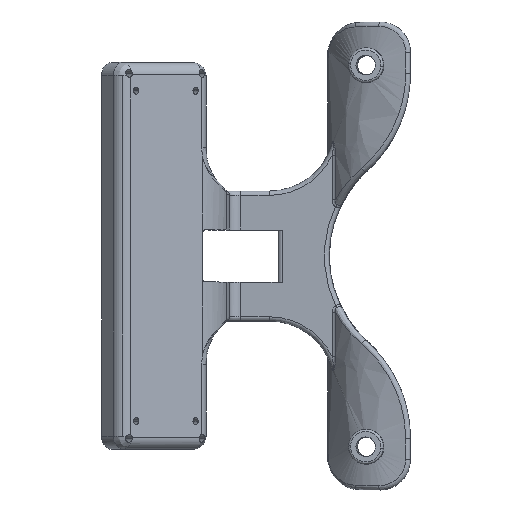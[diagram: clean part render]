
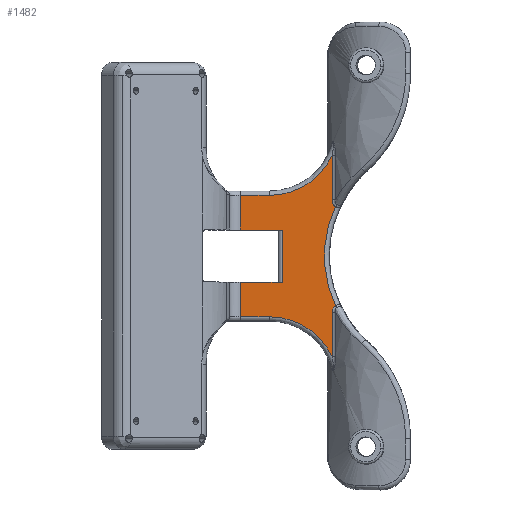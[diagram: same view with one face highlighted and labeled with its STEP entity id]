
A CAD part, top view. The second image highlights one B-rep face of the part: STEP entity #1482.
In plain terms, the highlighted planar face has unit normal (-0.04, 0, 0.999).
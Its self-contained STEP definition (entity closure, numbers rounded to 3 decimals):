
#115 = CARTESIAN_POINT ( 'NONE',  ( -21.756, -11.576, 86.727 ) ) ;
#173 = CARTESIAN_POINT ( 'NONE',  ( -22.273, 13.046, 86.706 ) ) ;
#202 = CARTESIAN_POINT ( 'NONE',  ( -22.273, -13.046, 86.706 ) ) ;
#228 = VECTOR ( 'NONE', #3594, 1000. ) ;
#238 = VERTEX_POINT ( 'NONE', #3571 ) ;
#267 = EDGE_CURVE ( 'NONE', #3783, #5908, #4291, .T. ) ;
#325 = CARTESIAN_POINT ( 'NONE',  ( -22.273, 0., 86.706 ) ) ;
#351 = EDGE_CURVE ( 'NONE', #4579, #238, #6690, .T. ) ;
#499 = ORIENTED_EDGE ( 'NONE', *, *, #1267, .T. ) ;
#601 = CARTESIAN_POINT ( 'NONE',  ( -36.743, 30., 86.127 ) ) ;
#652 = LINE ( 'NONE', #11689, #2396 ) ;
#989 = VERTEX_POINT ( 'NONE', #11862 ) ;
#1098 = CARTESIAN_POINT ( 'NONE',  ( -22.168, -12.258, 86.711 ) ) ;
#1102 = CARTESIAN_POINT ( 'NONE',  ( -22.047, 11.963, 86.715 ) ) ;
#1148 = DIRECTION ( 'NONE',  ( 0., -1., 0. ) ) ;
#1243 = ORIENTED_EDGE ( 'NONE', *, *, #7312, .F. ) ;
#1262 = VERTEX_POINT ( 'NONE', #3473 ) ;
#1267 = EDGE_CURVE ( 'NONE', #5908, #989, #1715, .T. ) ;
#1319 = EDGE_CURVE ( 'NONE', #10271, #1599, #6297, .T. ) ;
#1482 = ADVANCED_FACE ( 'NONE', ( #7320 ), #2748, .T. ) ;
#1530 = CARTESIAN_POINT ( 'NONE',  ( -21.966, 11.822, 86.719 ) ) ;
#1548 = ORIENTED_EDGE ( 'NONE', *, *, #9933, .T. ) ;
#1561 = CARTESIAN_POINT ( 'NONE',  ( -22.273, 0., 86.706 ) ) ;
#1599 = VERTEX_POINT ( 'NONE', #8067 ) ;
#1715 = CIRCLE ( 'NONE', #2479, 27. ) ;
#1762 = CARTESIAN_POINT ( 'NONE',  ( -22.168, 12.258, 86.71 ) ) ;
#1907 = DIRECTION ( 'NONE',  ( -0.04, 0., 0.999 ) ) ;
#1965 = CARTESIAN_POINT ( 'NONE',  ( -3.499, 0., 87.457 ) ) ;
#2151 = LINE ( 'NONE', #325, #5436 ) ;
#2166 = CARTESIAN_POINT ( 'NONE',  ( -43.401, -15., 85.861 ) ) ;
#2396 = VECTOR ( 'NONE', #5179, 1000. ) ;
#2479 = AXIS2_PLACEMENT_3D ( 'NONE', #7073, #3533, #3415 ) ;
#2552 = VECTOR ( 'NONE', #5284, 1000. ) ;
#2748 = PLANE ( 'NONE',  #10743 ) ;
#2796 = ORIENTED_EDGE ( 'NONE', *, *, #4982, .T. ) ;
#2966 = CARTESIAN_POINT ( 'NONE',  ( -21.487, -11.405, 86.738 ) ) ;
#3072 = LINE ( 'NONE', #2166, #6575 ) ;
#3152 = ORIENTED_EDGE ( 'NONE', *, *, #8782, .T. ) ;
#3202 = ORIENTED_EDGE ( 'NONE', *, *, #8100, .T. ) ;
#3334 = EDGE_CURVE ( 'NONE', #4971, #10271, #3072, .T. ) ;
#3354 = CARTESIAN_POINT ( 'NONE',  ( -3.499, -14., 87.457 ) ) ;
#3409 = VERTEX_POINT ( 'NONE', #6908 ) ;
#3415 = DIRECTION ( 'NONE',  ( 0.999, 0., 0.04 ) ) ;
#3473 = CARTESIAN_POINT ( 'NONE',  ( -22.273, 13.046, 86.706 ) ) ;
#3533 = DIRECTION ( 'NONE',  ( 0.04, 0., -0.999 ) ) ;
#3571 = CARTESIAN_POINT ( 'NONE',  ( -43.401, 6., 85.861 ) ) ;
#3594 = DIRECTION ( 'NONE',  ( 0., -1., 0. ) ) ;
#3632 = CARTESIAN_POINT ( 'NONE',  ( -22.273, -12.886, 86.706 ) ) ;
#3749 = ORIENTED_EDGE ( 'NONE', *, *, #4286, .T. ) ;
#3753 = ORIENTED_EDGE ( 'NONE', *, *, #4514, .T. ) ;
#3783 = VERTEX_POINT ( 'NONE', #202 ) ;
#4079 = DIRECTION ( 'NONE',  ( 0., 1., 0. ) ) ;
#4142 = VERTEX_POINT ( 'NONE', #8407 ) ;
#4143 = CIRCLE ( 'NONE', #5862, 16. ) ;
#4286 = EDGE_CURVE ( 'NONE', #5383, #7370, #8034, .T. ) ;
#4291 = B_SPLINE_CURVE_WITH_KNOTS ( 'NONE', 3,
 ( #4531, #3632, #7295, #10964, #1098, #10243, #6629, #115, #10306, #4885 ),
 .UNSPECIFIED., .F., .F.,
 ( 4, 2, 2, 2, 4 ),
 ( 0., 0., 0.001, 0.001, 0.002 ),
 .UNSPECIFIED. ) ;
#4470 = DIRECTION ( 'NONE',  ( 0.04, 0., -0.999 ) ) ;
#4514 = EDGE_CURVE ( 'NONE', #1599, #3409, #11211, .T. ) ;
#4531 = CARTESIAN_POINT ( 'NONE',  ( -22.273, -13.046, 86.706 ) ) ;
#4579 = VERTEX_POINT ( 'NONE', #11021 ) ;
#4708 = EDGE_CURVE ( 'NONE', #5383, #238, #5338, .T. ) ;
#4711 = CARTESIAN_POINT ( 'NONE',  ( -33.78, -6., 86.246 ) ) ;
#4755 = ORIENTED_EDGE ( 'NONE', *, *, #10689, .T. ) ;
#4885 = CARTESIAN_POINT ( 'NONE',  ( -21.487, -11.405, 86.738 ) ) ;
#4971 = VERTEX_POINT ( 'NONE', #10568 ) ;
#4982 = EDGE_CURVE ( 'NONE', #3409, #3783, #2151, .T. ) ;
#5179 = DIRECTION ( 'NONE',  ( -0.999, 0., -0.04 ) ) ;
#5284 = DIRECTION ( 'NONE',  ( -0.999, 0., -0.04 ) ) ;
#5313 = CARTESIAN_POINT ( 'NONE',  ( -3.499, -6., 87.457 ) ) ;
#5335 = CARTESIAN_POINT ( 'NONE',  ( -43.401, -14., 85.861 ) ) ;
#5338 = LINE ( 'NONE', #6117, #2552 ) ;
#5347 = LINE ( 'NONE', #1561, #6051 ) ;
#5383 = VERTEX_POINT ( 'NONE', #7339 ) ;
#5391 = CARTESIAN_POINT ( 'NONE',  ( -33.78, -6., 86.246 ) ) ;
#5436 = VECTOR ( 'NONE', #4079, 1000. ) ;
#5552 = CARTESIAN_POINT ( 'NONE',  ( -22.273, 12.886, 86.706 ) ) ;
#5862 = AXIS2_PLACEMENT_3D ( 'NONE', #601, #4470, #6993 ) ;
#5908 = VERTEX_POINT ( 'NONE', #2966 ) ;
#6051 = VECTOR ( 'NONE', #9000, 1000. ) ;
#6090 = CARTESIAN_POINT ( 'NONE',  ( -21.759, 11.579, 86.727 ) ) ;
#6117 = CARTESIAN_POINT ( 'NONE',  ( -3.499, 6., 87.457 ) ) ;
#6297 = LINE ( 'NONE', #3354, #6328 ) ;
#6328 = VECTOR ( 'NONE', #7132, 1000. ) ;
#6418 = DIRECTION ( 'NONE',  ( 0.999, 0., 0.04 ) ) ;
#6575 = VECTOR ( 'NONE', #1148, 1000. ) ;
#6629 = CARTESIAN_POINT ( 'NONE',  ( -21.966, -11.821, 86.719 ) ) ;
#6690 = LINE ( 'NONE', #9392, #9771 ) ;
#6811 = CARTESIAN_POINT ( 'NONE',  ( -36.743, -30., 86.127 ) ) ;
#6908 = CARTESIAN_POINT ( 'NONE',  ( -22.273, -23.196, 86.706 ) ) ;
#6993 = DIRECTION ( 'NONE',  ( 0.999, 0., 0.04 ) ) ;
#7020 = ORIENTED_EDGE ( 'NONE', *, *, #4708, .F. ) ;
#7073 = CARTESIAN_POINT ( 'NONE',  ( 2.966, 0., 87.716 ) ) ;
#7132 = DIRECTION ( 'NONE',  ( 0.999, 0., 0.04 ) ) ;
#7295 = CARTESIAN_POINT ( 'NONE',  ( -22.262, -12.725, 86.707 ) ) ;
#7312 = EDGE_CURVE ( 'NONE', #4971, #7370, #11645, .T. ) ;
#7320 = FACE_OUTER_BOUND ( 'NONE', #9419, .T. ) ;
#7339 = CARTESIAN_POINT ( 'NONE',  ( -33.78, 6., 86.246 ) ) ;
#7370 = VERTEX_POINT ( 'NONE', #4711 ) ;
#7729 = AXIS2_PLACEMENT_3D ( 'NONE', #6811, #7828, #10483 ) ;
#7828 = DIRECTION ( 'NONE',  ( 0.04, 0., -0.999 ) ) ;
#7961 = VECTOR ( 'NONE', #8787, 1000. ) ;
#8034 = LINE ( 'NONE', #5391, #228 ) ;
#8067 = CARTESIAN_POINT ( 'NONE',  ( -36.743, -14., 86.127 ) ) ;
#8100 = EDGE_CURVE ( 'NONE', #989, #1262, #10973, .T. ) ;
#8407 = CARTESIAN_POINT ( 'NONE',  ( -22.273, 23.196, 86.706 ) ) ;
#8545 = DIRECTION ( 'NONE',  ( 0., -1., 0. ) ) ;
#8782 = EDGE_CURVE ( 'NONE', #9620, #4579, #652, .T. ) ;
#8787 = DIRECTION ( 'NONE',  ( 0.999, 0., 0.04 ) ) ;
#9000 = DIRECTION ( 'NONE',  ( 0., 1., 0. ) ) ;
#9260 = ORIENTED_EDGE ( 'NONE', *, *, #1319, .T. ) ;
#9392 = CARTESIAN_POINT ( 'NONE',  ( -43.401, -15., 85.861 ) ) ;
#9419 = EDGE_LOOP ( 'NONE', ( #499, #3202, #4755, #1548, #3152, #9916, #7020, #3749, #1243, #11941, #9260, #3753, #2796, #10621 ) ) ;
#9620 = VERTEX_POINT ( 'NONE', #10588 ) ;
#9771 = VECTOR ( 'NONE', #8545, 1000. ) ;
#9916 = ORIENTED_EDGE ( 'NONE', *, *, #351, .T. ) ;
#9933 = EDGE_CURVE ( 'NONE', #4142, #9620, #4143, .T. ) ;
#10190 = CARTESIAN_POINT ( 'NONE',  ( -22.21, 12.415, 86.709 ) ) ;
#10243 = CARTESIAN_POINT ( 'NONE',  ( -22.046, -11.96, 86.715 ) ) ;
#10271 = VERTEX_POINT ( 'NONE', #5335 ) ;
#10306 = CARTESIAN_POINT ( 'NONE',  ( -21.632, -11.476, 86.732 ) ) ;
#10483 = DIRECTION ( 'NONE',  ( 0.999, 0., 0.04 ) ) ;
#10568 = CARTESIAN_POINT ( 'NONE',  ( -43.401, -6., 85.861 ) ) ;
#10588 = CARTESIAN_POINT ( 'NONE',  ( -36.743, 14., 86.127 ) ) ;
#10621 = ORIENTED_EDGE ( 'NONE', *, *, #267, .T. ) ;
#10671 = CARTESIAN_POINT ( 'NONE',  ( -21.632, 11.476, 86.732 ) ) ;
#10689 = EDGE_CURVE ( 'NONE', #1262, #4142, #5347, .T. ) ;
#10743 = AXIS2_PLACEMENT_3D ( 'NONE', #1965, #1907, #6418 ) ;
#10964 = CARTESIAN_POINT ( 'NONE',  ( -22.209, -12.411, 86.709 ) ) ;
#10973 = B_SPLINE_CURVE_WITH_KNOTS ( 'NONE', 3,
 ( #11584, #10671, #6090, #1530, #1102, #1762, #10190, #11096, #5552, #173 ),
 .UNSPECIFIED., .F., .F.,
 ( 4, 2, 2, 2, 4 ),
 ( 0., 0., 0.001, 0.001, 0.002 ),
 .UNSPECIFIED. ) ;
#11021 = CARTESIAN_POINT ( 'NONE',  ( -43.401, 14., 85.861 ) ) ;
#11096 = CARTESIAN_POINT ( 'NONE',  ( -22.262, 12.728, 86.707 ) ) ;
#11211 = CIRCLE ( 'NONE', #7729, 16. ) ;
#11584 = CARTESIAN_POINT ( 'NONE',  ( -21.487, 11.405, 86.738 ) ) ;
#11645 = LINE ( 'NONE', #5313, #7961 ) ;
#11689 = CARTESIAN_POINT ( 'NONE',  ( -3.499, 14., 87.457 ) ) ;
#11862 = CARTESIAN_POINT ( 'NONE',  ( -21.487, 11.405, 86.738 ) ) ;
#11941 = ORIENTED_EDGE ( 'NONE', *, *, #3334, .T. ) ;
